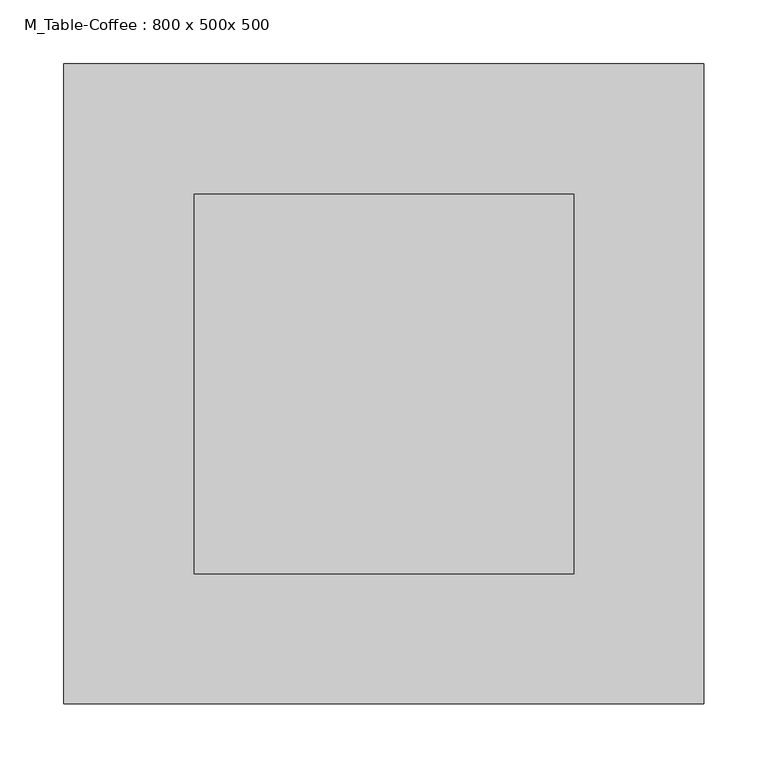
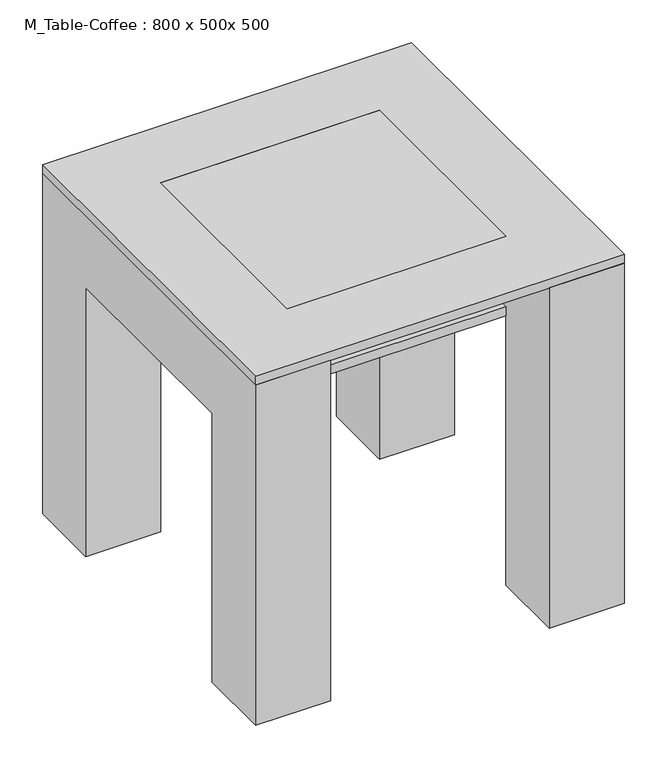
"""IFC4 building model written with IfcOpenShell, lengths in millimetres: furniture geometry, M_Table-Coffee : 800 x 500x 500."""

from ifc_helpers import new_model, si_unit, frame, origin, place, context, project, spatial, polyline, outline, extrude, source, transform, mapped, element, save


def m_table_coffee_800_x_500x_500_b2e9b833(model_context):
    return source(origin(), model_context, "Body", "SweptSolid", [
        extrude(outline(polyline([(166.6657667, -243.6110778), (-130.1342333, -243.6110778), (-130.1342333, 53.1889222), (166.6657667, 53.1889222), (166.6657667, -243.6110778)])), frame((0.0, 0.0, 385.7), z_axis=(0.0, 0.0, 1.0), x_axis=(1.0, 0.0, 0.0)), (0.0, 0.0, 1.0), 12.7),
        extrude(outline(polyline([(-345.2110778, 0.0), (-345.2110778, 487.3), (154.7889222, 487.3), (154.7889222, 0.0), (53.1889222, 0.0), (53.1889222, 385.7), (-243.6110778, 385.7), (-243.6110778, 0.0), (-345.2110778, 0.0)])), frame((166.6657667, 0.0, 0.0), z_axis=(1.0, 0.0, 0.0), x_axis=(0.0, 1.0, 0.0)), (0.0, 0.0, 1.0), 101.6),
        extrude(outline(polyline([(-345.2110778, 487.3), (154.7889222, 487.3), (154.7889222, 0.0), (53.1889222, 0.0), (53.1889222, 385.7), (-243.6110778, 385.7), (-243.6110778, 0.0), (-345.2110778, 0.0), (-345.2110778, 487.3)])), frame((-231.7342333, 0.0, 0.0), z_axis=(1.0, 0.0, 0.0), x_axis=(0.0, 1.0, 0.0)), (0.0, 0.0, 1.0), 101.6),
        extrude(outline(polyline([(166.6657667, -243.6110778), (-130.1342333, -243.6110778), (-130.1342333, 53.1889222), (166.6657667, 53.1889222), (166.6657667, -243.6110778)])), frame((0.0, 0.0, 487.3), z_axis=(0.0, 0.0, 1.0), x_axis=(1.0, 0.0, 0.0)), (0.0, 0.0, 1.0), 12.7),
        extrude(outline(polyline([(268.2657667, -345.2110778), (-231.7342333, -345.2110778), (-231.7342333, 154.7889222), (268.2657667, 154.7889222), (268.2657667, -345.2110778)]), holes=[polyline([(166.6657667, -243.6110778), (166.6657667, 53.1889222), (-130.1342333, 53.1889222), (-130.1342333, -243.6110778), (166.6657667, -243.6110778)])]), frame((0.0, 0.0, 487.3), z_axis=(0.0, 0.0, 1.0), x_axis=(1.0, 0.0, 0.0)), (0.0, 0.0, 1.0), 12.7),
    ])


if __name__ == "__main__":
    model = new_model("IFC4")
    model_context = context("Model", 3, world=origin())
    ifc_project = project(units=[si_unit("LENGTHUNIT", "METRE", prefix="MILLI")], contexts=[model_context])
    site = spatial("IfcSite", under=ifc_project)
    building = spatial("IfcBuilding", under=site)
    placement = place(None, origin())
    m_table_coffee_800_x_500x_500_shape = m_table_coffee_800_x_500x_500_b2e9b833(model_context)
    element("IfcFurniture", 1, ObjectType="M_Table-Coffee : 800 x 500x 500", at=placement, inside=building, context=model_context, shape_type="MappedRepresentation", body=[
        mapped(m_table_coffee_800_x_500x_500_shape, transform((0.0, 0.0, 0.0), x_axis=(1.0, 0.0, 0.0), y_axis=(0.0, 1.0, 0.0), z_axis=(0.0, 0.0, 1.0))),
    ])
    save(model, "model.ifc")
